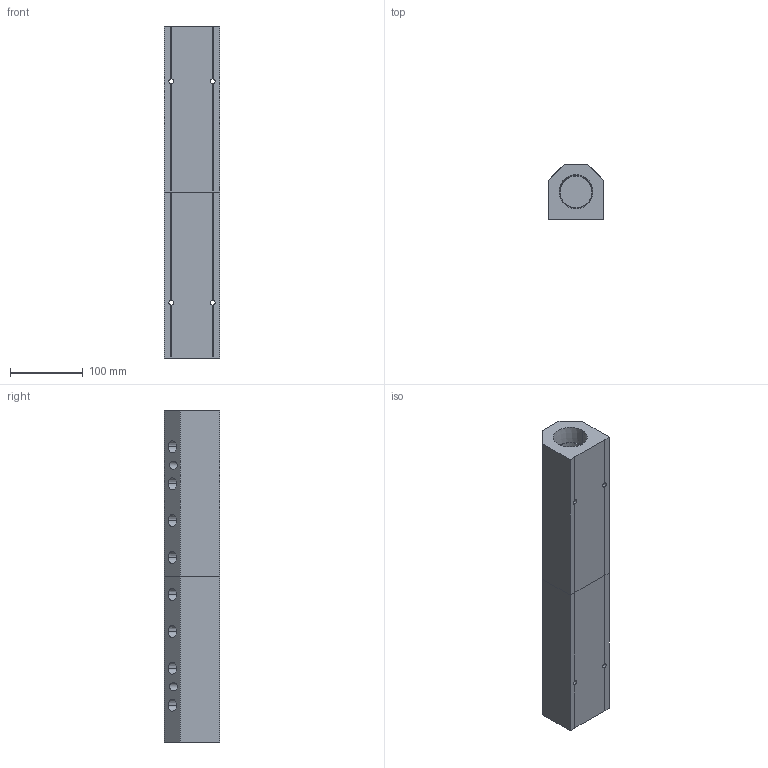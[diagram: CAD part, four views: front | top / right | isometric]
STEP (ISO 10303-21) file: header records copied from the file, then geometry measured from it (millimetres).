
FILE_DESCRIPTION (( 'STEP AP214' ), '1' );
FILE_NAME ('ALM8BD-N6N24-457RB.step', '2022-02-07T09:16:15', ( '' ), ( '' ), 'SwSTEP 2.0', 'SolidWorks 2020', '' );
FILE_SCHEMA (( 'AUTOMOTIVE_DESIGN' ));
Length unit declared in the file: millimetre
Products named in the file (1): ALM8BD-N6N24-457RB
Bounding box: 76.2 x 76.2 x 457 mm (x, y, z)
Volume: 1652269.7 mm3; surface area: 224305.4 mm2
Topology: 2 solids, 2 shells, 371 faces, 973 edges, 646 vertices
Faces by surface type: plane 243, bspline 72, cone 36, cylinder 20
Entity records: 20681 total; most frequent: CARTESIAN_POINT 8487, ORIENTED_EDGE 1946, DIRECTION 1453, EDGE_CURVE 973, LINE 709, VECTOR 709, VERTEX_POINT 646, EDGE_LOOP 451
